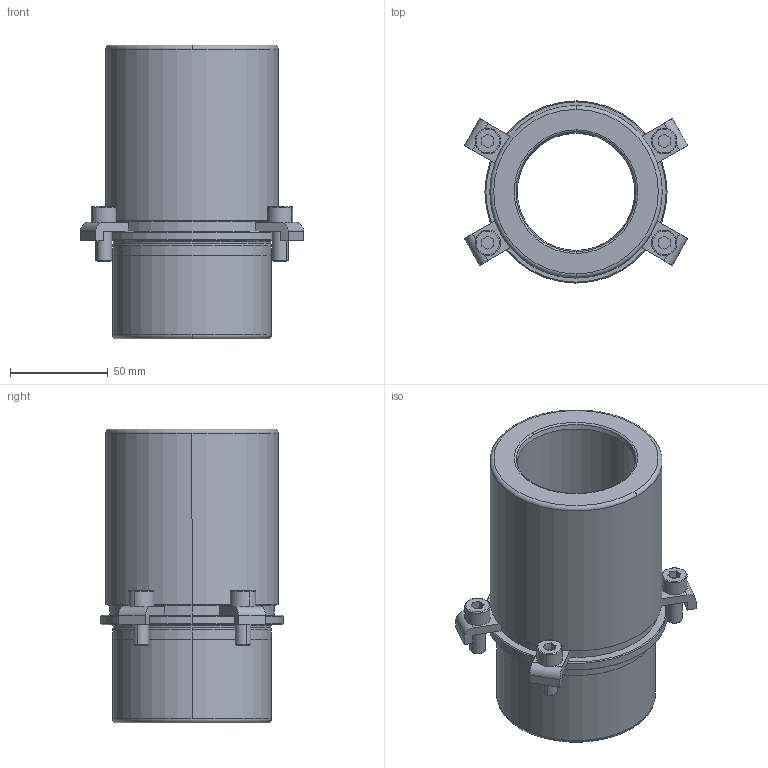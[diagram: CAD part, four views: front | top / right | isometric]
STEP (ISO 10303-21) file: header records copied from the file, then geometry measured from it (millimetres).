
FILE_DESCRIPTION((''),'2;1');
FILE_NAME('B40_048_100.stp','2009-01-05T16:40:45',(''),(''),'Mechanical Desktop 2009','Mechanical Desktop 2009',', , ');
FILE_SCHEMA(('CONFIG_CONTROL_DESIGN'));
Length unit declared in the file: millimetre
Products named in the file (2): Product; blmdl1
Assembly tree (1 placements, depth 2):
  Product
    blmdl1
Bounding box: 114.12 x 93 x 150 mm (x, y, z)
Volume: 454802.8 mm3; surface area: 85554.6 mm2
Topology: 9 solids, 9 shells, 173 faces, 422 edges, 278 vertices
Faces by surface type: plane 73, cylinder 50, cone 22, torus 16, bspline 12
Entity records: 5767 total; most frequent: CARTESIAN_POINT 1403, DIRECTION 966, ORIENTED_EDGE 844, EDGE_CURVE 422, AXIS2_PLACEMENT_3D 381, VERTEX_POINT 278, CIRCLE 218, VECTOR 204
